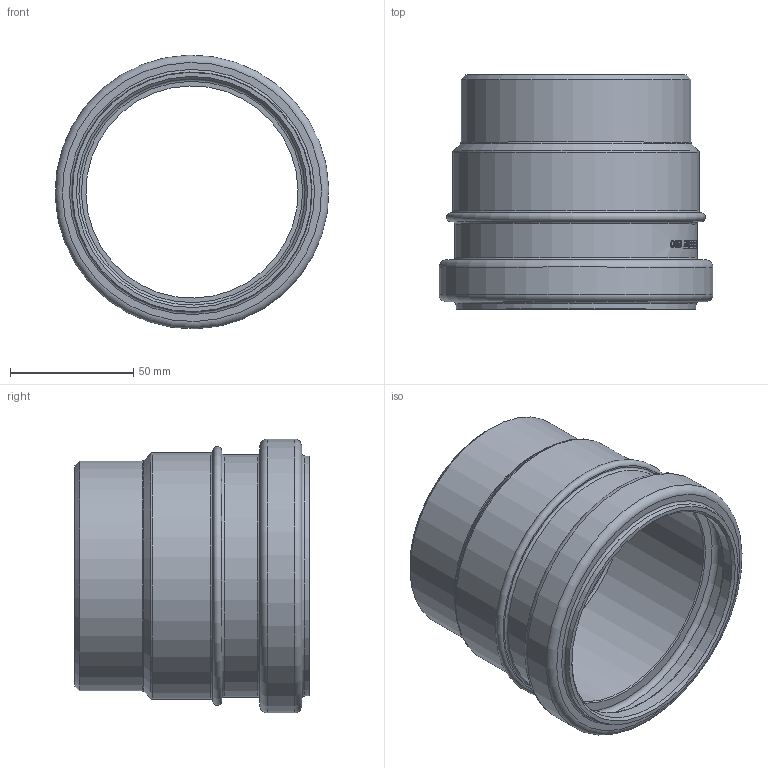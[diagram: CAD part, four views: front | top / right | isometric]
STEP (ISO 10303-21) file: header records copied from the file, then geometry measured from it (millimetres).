
FILE_DESCRIPTION(/* description */ (''),/* implementation_level */ '2;1');
FILE_NAME(/* name */ 'C:\Planerdaten\Export PLA\359.144.11.1\stp\359144.stp',/* time_stamp */ '2020-05-11T13:51:09+02:00',/* author */ ('JANAN'),/* organization */ (''),/* preprocessor_version */ 'ST-DEVELOPER v16.13',/* originating_system */ 'Autodesk Inventor 2018',/* authorisation */ '');
FILE_SCHEMA (('AUTOMOTIVE_DESIGN { 1 0 10303 214 3 1 1 }'));
Length unit declared in the file: millimetre
Products named in the file (1): Steckmuffe PVC d90/100
Bounding box: 110.97 x 95 x 110.97 mm (x, y, z)
Volume: 118924.7 mm3; surface area: 66879.6 mm2
Topology: 1 solids, 1 shells, 157 faces, 381 edges, 250 vertices
Faces by surface type: plane 83, bspline 28, cylinder 27, torus 14, cone 5
Full cylindrical faces by diameter (mm): 86 x1, 91.7 x2, 93.25 x1, 98.2 x1, 99.8 x1, 104.3 x1, 111 x1
Entity records: 7127 total; most frequent: CARTESIAN_POINT 3469, ORIENTED_EDGE 694, DIRECTION 678, EDGE_CURVE 347, AXIS2_PLACEMENT_3D 257, VERTEX_POINT 243, EDGE_LOOP 210, LINE 164
